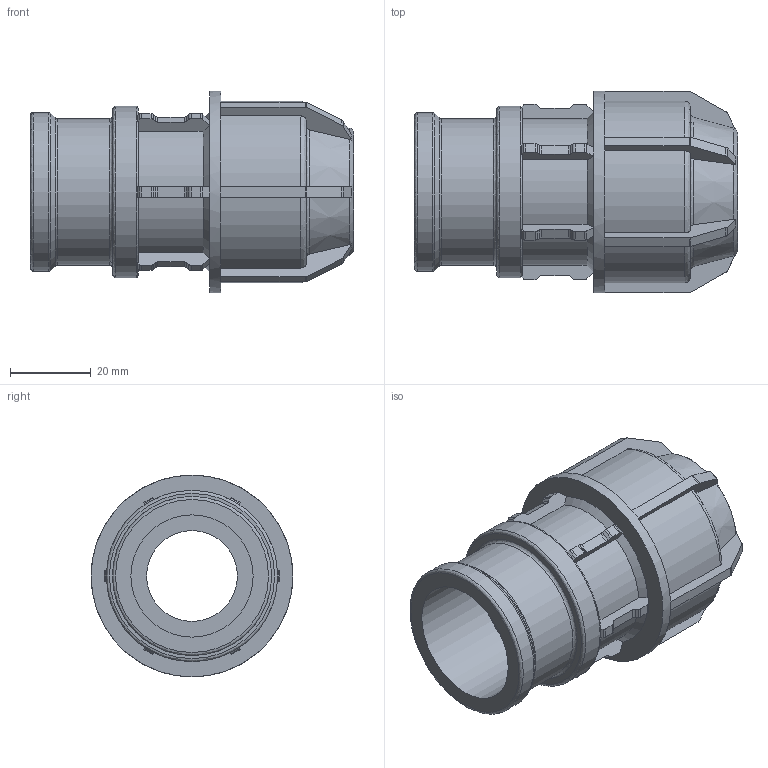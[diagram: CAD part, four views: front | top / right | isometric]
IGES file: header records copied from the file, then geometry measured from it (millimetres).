
Global section: file name: 140300025010.ipt; native system: Autodesk Inventor 2015; preprocessor: unknown; author: KIM; date: 20180409.131007; units: millimetre
Bounding box: 80 x 50 x 50 mm (x, y, z)
Volume: 57914.5 mm3; surface area: 21865.4 mm2
Topology: 1 solids, 1 shells, 261 faces, 745 edges, 480 vertices
Faces by surface type: plane 160, cylinder 52, revolution 36, cone 13
Full cylindrical faces by diameter (mm): 36.349 x1, 39.378 x1, 42.407 x1, 50 x1
